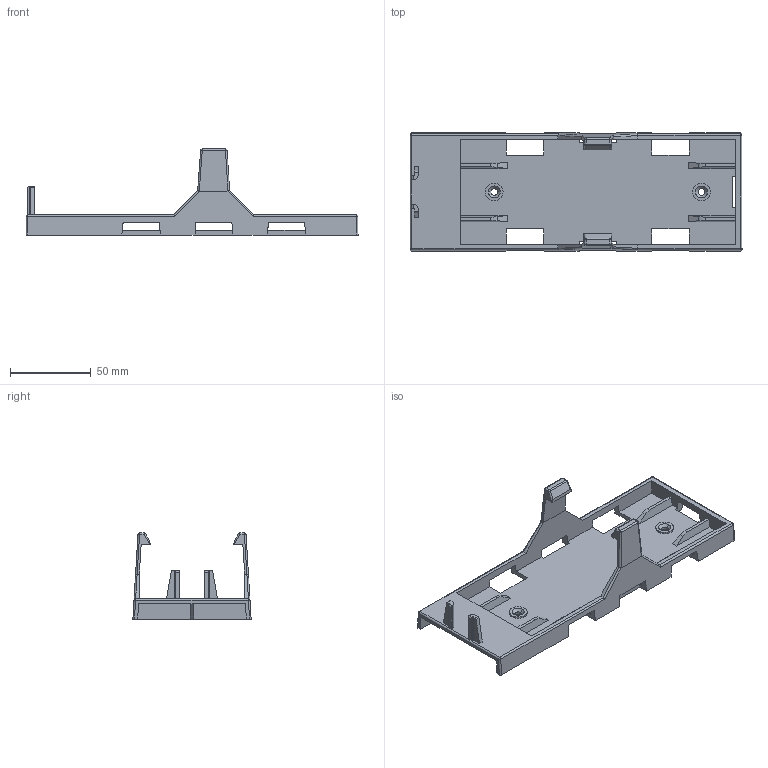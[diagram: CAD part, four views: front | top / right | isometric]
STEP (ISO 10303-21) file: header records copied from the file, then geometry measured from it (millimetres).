
FILE_DESCRIPTION (( 'STEP AP214' ), '1' );
FILE_NAME ('Netzteilhalterung.STEP', '2010-10-18T11:33:31', ( 'grass' ), ( '' ), 'SwSTEP 2.0', 'SolidWorks 2010', '' );
FILE_SCHEMA (( 'AUTOMOTIVE_DESIGN' ));
Length unit declared in the file: millimetre
Products named in the file (1): Netzteilhalterung
Bounding box: 205 x 73 x 53.19 mm (x, y, z)
Volume: 63322 mm3; surface area: 44402 mm2
Topology: 1 solids, 1 shells, 178 faces, 504 edges, 316 vertices
Faces by surface type: plane 102, cylinder 60, bspline 16
Entity records: 6302 total; most frequent: CARTESIAN_POINT 1795, ORIENTED_EDGE 1004, DIRECTION 842, EDGE_CURVE 502, LINE 340, VECTOR 340, VERTEX_POINT 316, AXIS2_PLACEMENT_3D 251
